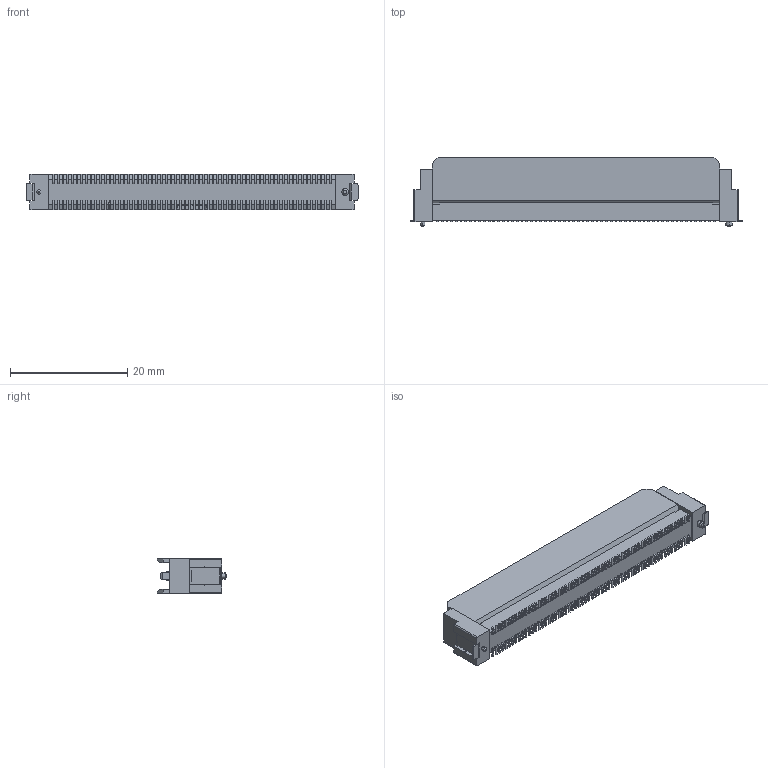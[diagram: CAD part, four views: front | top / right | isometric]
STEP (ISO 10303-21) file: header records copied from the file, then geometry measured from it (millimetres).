
FILE_DESCRIPTION (( 'STEP AP203' ), '1' );
FILE_NAME ('DFJ-PC120-S931110D(M)-FA.STEP', '2021-09-07T05:35:32', ( '' ), ( '' ), 'SwSTEP 2.0', 'SolidWorks 2018', '' );
FILE_SCHEMA (( 'CONFIG_CONTROL_DESIGN' ));
Length unit declared in the file: millimetre
Products named in the file (1): DFJ-PC120-S931110D(M)-FA
Bounding box: 56.6 x 11.8 x 6 mm (x, y, z)
Volume: 2108.6 mm3; surface area: 3276 mm2
Topology: 1 solids, 1 shells, 1554 faces, 4238 edges, 2802 vertices
Faces by surface type: plane 1252, cylinder 284, cone 12, bspline 4, torus 2
Entity records: 48869 total; most frequent: CARTESIAN_POINT 8765, ORIENTED_EDGE 8468, DIRECTION 8100, EDGE_CURVE 4234, LINE 3410, VECTOR 3410, VERTEX_POINT 2802, AXIS2_PLACEMENT_3D 2345
